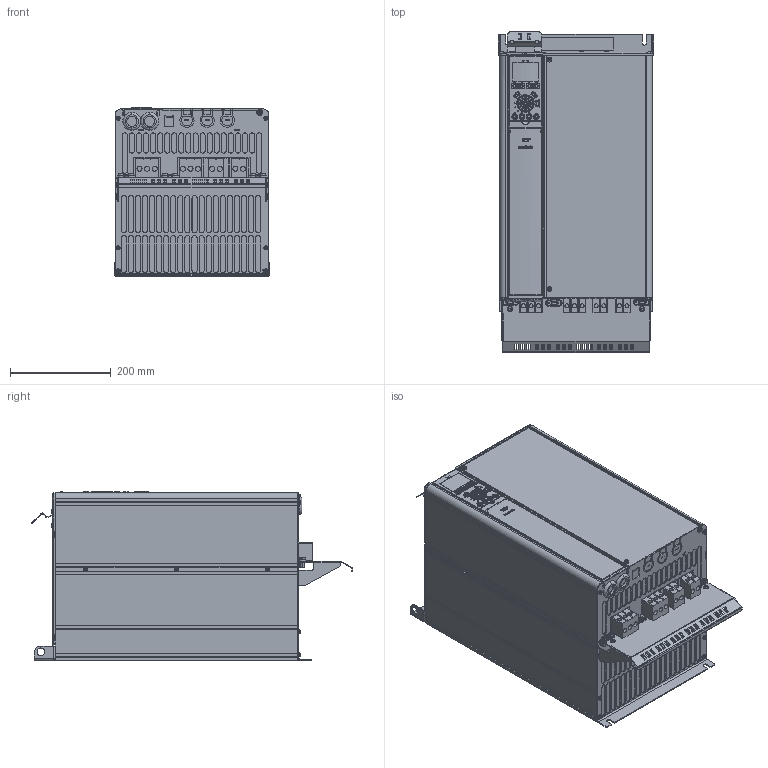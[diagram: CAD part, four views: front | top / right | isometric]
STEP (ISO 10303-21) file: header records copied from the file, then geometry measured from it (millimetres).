
FILE_DESCRIPTION((''),'2;1');
FILE_NAME('DANFOSS-FC300-C3-IP20-OPT-126','2007-07-09T',('janardhan.mankala'),('dan Drives A/S'),'PRO/ENGINEER BY PARAMETRIC TECHNOLOGY CORPORATION, 2006200','PRO/ENGINEER BY PARAMETRIC TECHNOLOGY CORPORATION, 2006200','');
FILE_SCHEMA(('CONFIG_CONTROL_DESIGN', 'GEOMETRIC_VALIDATION_PROPERTIES_MIM'));
Products named in the file (1): DANFOSS-FC300-C3-IP20-OPT-126
Bounding box: 308 x 636 x 334.01 mm (x, y, z)
Volume: 45424327 mm3; surface area: 2017714 mm2
Topology: 1 solids, 39 shells, 6108 faces, 16703 edges, 10787 vertices
Faces by surface type: plane 3397, cylinder 1602, bspline 608, extrusion 182, torus 144, cone 98, sphere 77
Entity records: 291140 total; most frequent: CARTESIAN_POINT 123575, ORIENTED_EDGE 33240, DIRECTION 27663, EDGE_CURVE 16620, VERTEX_POINT 10787, AXIS2_PLACEMENT_3D 9294, VECTOR 9075, LINE 8893
